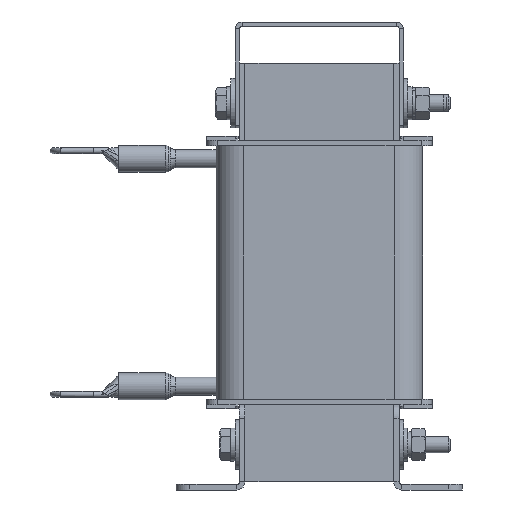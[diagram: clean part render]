
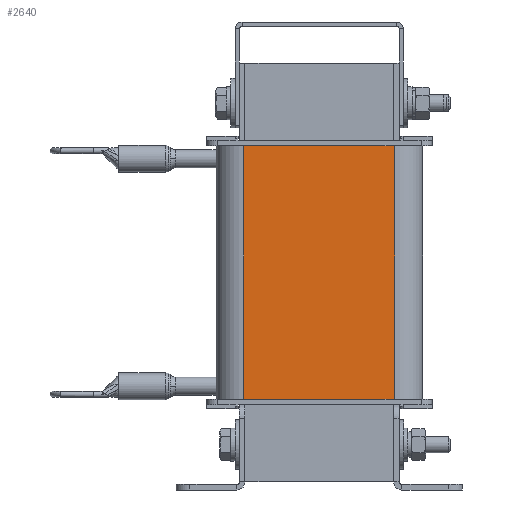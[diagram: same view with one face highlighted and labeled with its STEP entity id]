
A CAD part, left-side view. The second image highlights one B-rep face of the part: STEP entity #2640.
In plain terms, the highlighted planar face has unit normal (-1, 0, 0).
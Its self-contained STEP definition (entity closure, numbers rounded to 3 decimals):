
#2640=ADVANCED_FACE('',(#4538),#4540,.T.);
#4538=FACE_BOUND('',#4539,.T.);
#4539=EDGE_LOOP('',(#7388,#7389,#7390,#7391));
#4540=PLANE('',#4541);
#4541=AXIS2_PLACEMENT_3D('',#4542,#4543,#4544);
#4542=CARTESIAN_POINT('',(-27.,27.5,0.));
#4543=DIRECTION('',(-1.,0.,0.));
#4544=DIRECTION('',(0.,-1.,0.));
#7388=ORIENTED_EDGE('',*,*,#8337,.T.);
#7389=ORIENTED_EDGE('',*,*,#8365,.T.);
#7390=ORIENTED_EDGE('',*,*,#8354,.F.);
#7391=ORIENTED_EDGE('',*,*,#8366,.F.);
#8337=EDGE_CURVE('',#9310,#9307,#9311,.T.);
#8354=EDGE_CURVE('',#9342,#9344,#9345,.T.);
#8365=EDGE_CURVE('',#9307,#9344,#9360,.T.);
#8366=EDGE_CURVE('',#9310,#9342,#9361,.T.);
#9307=VERTEX_POINT('',#11352);
#9310=VERTEX_POINT('',#11358);
#9311=LINE('',#11359,#11360);
#9342=VERTEX_POINT('',#11427);
#9344=VERTEX_POINT('',#11432);
#9345=LINE('',#11433,#11434);
#9360=LINE('',#11471,#11472);
#9361=LINE('',#11474,#11475);
#11352=CARTESIAN_POINT('',(-27.,-27.5,0.));
#11358=CARTESIAN_POINT('',(-27.,27.5,0.));
#11359=CARTESIAN_POINT('',(-27.,27.5,0.));
#11360=VECTOR('',#11361,1.);
#11361=DIRECTION('',(0.,-1.,0.));
#11427=CARTESIAN_POINT('',(-27.,27.5,92.));
#11432=CARTESIAN_POINT('',(-27.,-27.5,92.));
#11433=CARTESIAN_POINT('',(-27.,27.5,92.));
#11434=VECTOR('',#11435,1.);
#11435=DIRECTION('',(0.,-1.,0.));
#11471=CARTESIAN_POINT('',(-27.,-27.5,0.));
#11472=VECTOR('',#11473,1.);
#11473=DIRECTION('',(0.,0.,1.));
#11474=CARTESIAN_POINT('',(-27.,27.5,0.));
#11475=VECTOR('',#11476,1.);
#11476=DIRECTION('',(0.,0.,1.));
